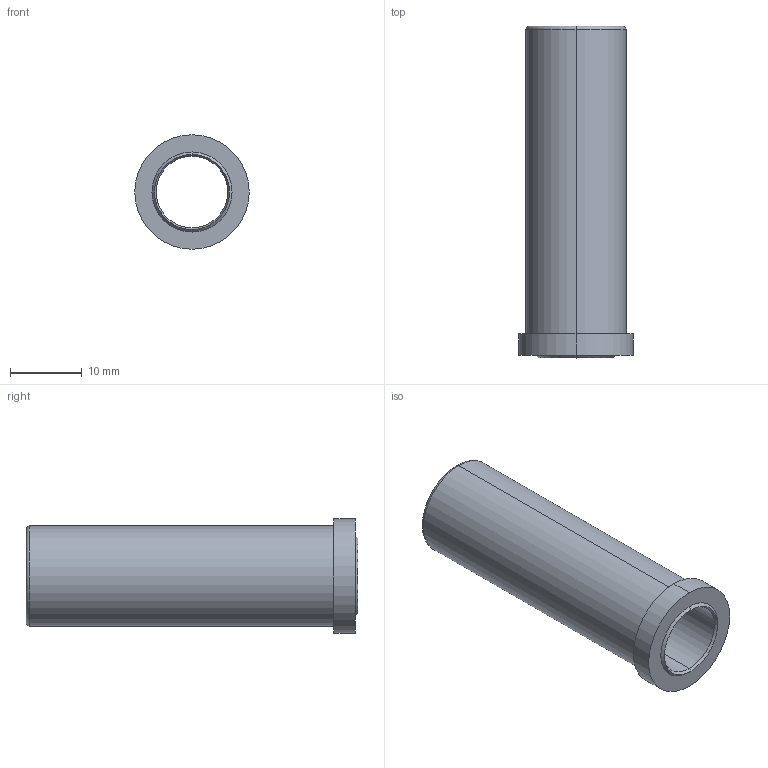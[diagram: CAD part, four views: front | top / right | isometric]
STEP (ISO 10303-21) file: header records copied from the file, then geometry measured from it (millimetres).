
FILE_DESCRIPTION (( 'STEP AP214' ), '1' );
FILE_NAME ('BR11W 9 x 46.STEP', '2019-12-09T17:43:20', ( 'August' ), ( '' ), 'SwSTEP 2.0', 'SolidWorks 2018', '' );
FILE_SCHEMA (( 'AUTOMOTIVE_DESIGN' ));
Length unit declared in the file: millimetre
Products named in the file (1): BR11W 9 x 46
Bounding box: 16 x 46.36 x 16 mm (x, y, z)
Volume: 3606.9 mm3; surface area: 3725.1 mm2
Topology: 1 solids, 1 shells, 17 faces, 34 edges, 20 vertices
Faces by surface type: cone 6, cylinder 6, plane 3, torus 2
Entity records: 484 total; most frequent: DIRECTION 92, CARTESIAN_POINT 72, ORIENTED_EDGE 68, AXIS2_PLACEMENT_3D 40, EDGE_CURVE 34, CIRCLE 22, EDGE_LOOP 20, VERTEX_POINT 20
